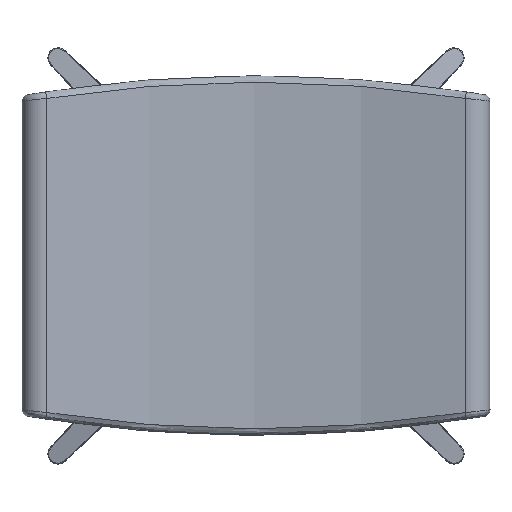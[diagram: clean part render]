
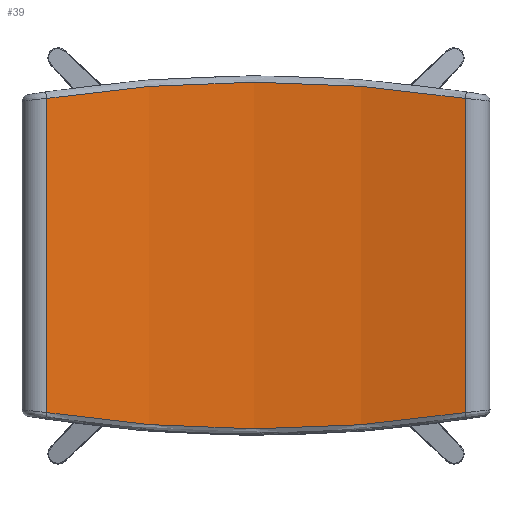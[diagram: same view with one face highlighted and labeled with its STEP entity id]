
A CAD part, top view. The second image highlights one B-rep face of the part: STEP entity #39.
In plain terms, the highlighted free-form (B-spline) face has degree [2, 1] with [3, 2] control points.
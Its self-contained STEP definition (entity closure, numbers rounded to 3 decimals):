
#39=ADVANCED_FACE('',(#195),#2098,.T.);
#195=FACE_OUTER_BOUND('',#351,.T.);
#351=EDGE_LOOP('',(#527,#528,#529,#530));
#527=ORIENTED_EDGE('',*,*,#1167,.F.);
#528=ORIENTED_EDGE('',*,*,#1172,.T.);
#529=ORIENTED_EDGE('',*,*,#1168,.T.);
#530=ORIENTED_EDGE('',*,*,#1185,.F.);
#1167=EDGE_CURVE('',#1893,#1901,#1523,.T.);
#1168=EDGE_CURVE('',#1894,#1902,#1524,.T.);
#1172=EDGE_CURVE('',#1893,#1894,#1528,.T.);
#1185=EDGE_CURVE('',#1901,#1902,#1540,.T.);
#1523=(
BOUNDED_CURVE()
B_SPLINE_CURVE(1,(#3179,#3180),.UNSPECIFIED.,.F.,.F.)
B_SPLINE_CURVE_WITH_KNOTS((2,2),(53.322,446.678),
 .UNSPECIFIED.)
CURVE()
GEOMETRIC_REPRESENTATION_ITEM()
RATIONAL_B_SPLINE_CURVE((1.,1.))
REPRESENTATION_ITEM('')
);
#1524=(
BOUNDED_CURVE()
B_SPLINE_CURVE(1,(#3181,#3182),.UNSPECIFIED.,.F.,.F.)
B_SPLINE_CURVE_WITH_KNOTS((2,2),(53.322,446.678),
 .UNSPECIFIED.)
CURVE()
GEOMETRIC_REPRESENTATION_ITEM()
RATIONAL_B_SPLINE_CURVE((1.,1.))
REPRESENTATION_ITEM('')
);
#1528=(
BOUNDED_CURVE()
B_SPLINE_CURVE(3,(#3195,#3196,#3197,#3198,#3199,#3200,#3201),
 .UNSPECIFIED.,.F.,.F.)
B_SPLINE_CURVE_WITH_KNOTS((4,1,1,1,4),(-1.232,129.027,
266.374,403.722,533.981),.UNSPECIFIED.)
CURVE()
GEOMETRIC_REPRESENTATION_ITEM()
RATIONAL_B_SPLINE_CURVE((1.,1.,1.,1.,
1.,1.,1.))
REPRESENTATION_ITEM('')
);
#1540=(
BOUNDED_CURVE()
B_SPLINE_CURVE(3,(#3261,#3262,#3263,#3264,#3265,#3266,#3267),
 .UNSPECIFIED.,.F.,.F.)
B_SPLINE_CURVE_WITH_KNOTS((4,1,1,1,4),(-1.232,129.027,
266.374,403.722,533.981),.UNSPECIFIED.)
CURVE()
GEOMETRIC_REPRESENTATION_ITEM()
RATIONAL_B_SPLINE_CURVE((1.,1.,1.,1.,1.,1.,1.))
REPRESENTATION_ITEM('')
);
#1893=VERTEX_POINT('',#3074);
#1894=VERTEX_POINT('',#3075);
#1901=VERTEX_POINT('',#3082);
#1902=VERTEX_POINT('',#3083);
#2098=(
BOUNDED_SURFACE()
B_SPLINE_SURFACE(2,1,((#2613,#2614),(#2615,#2616),(#2617,#2618)),
 .UNSPECIFIED.,.F.,.F.,.F.)
B_SPLINE_SURFACE_WITH_KNOTS((3,3),(2,2),(721.399,1250.508),
(0.,500.),.UNSPECIFIED.)
GEOMETRIC_REPRESENTATION_ITEM()
RATIONAL_B_SPLINE_SURFACE(((1.,1.),(0.968,0.968),
(1.,1.)))
REPRESENTATION_ITEM('')
SURFACE()
);
#2613=CARTESIAN_POINT('',(-261.727,-250.,403.372));
#2614=CARTESIAN_POINT('',(-261.727,250.,403.372));
#2615=CARTESIAN_POINT('',(0.,-250.,335.525));
#2616=CARTESIAN_POINT('',(0.,250.,335.525));
#2617=CARTESIAN_POINT('',(261.727,-250.,403.372));
#2618=CARTESIAN_POINT('',(261.727,250.,403.372));
#3074=CARTESIAN_POINT('',(-261.727,-196.678,403.372));
#3075=CARTESIAN_POINT('',(261.727,-196.678,403.372));
#3082=CARTESIAN_POINT('',(-261.727,196.678,403.372));
#3083=CARTESIAN_POINT('',(261.727,196.678,403.372));
#3179=CARTESIAN_POINT('',(-261.727,-196.678,403.372));
#3180=CARTESIAN_POINT('',(-261.727,196.678,403.372));
#3181=CARTESIAN_POINT('',(261.727,-196.678,403.372));
#3182=CARTESIAN_POINT('',(261.727,196.678,403.372));
#3195=CARTESIAN_POINT('',(-261.727,-196.678,403.372));
#3196=CARTESIAN_POINT('',(-220.479,-203.123,392.679));
#3197=CARTESIAN_POINT('',(-133.955,-213.419,375.805));
#3198=CARTESIAN_POINT('',(0.,-218.84,367.019));
#3199=CARTESIAN_POINT('',(133.955,-213.419,375.805));
#3200=CARTESIAN_POINT('',(220.479,-203.123,392.679));
#3201=CARTESIAN_POINT('',(261.727,-196.678,403.372));
#3261=CARTESIAN_POINT('',(-261.727,196.678,403.372));
#3262=CARTESIAN_POINT('',(-220.479,203.123,392.679));
#3263=CARTESIAN_POINT('',(-133.955,213.419,375.805));
#3264=CARTESIAN_POINT('',(0.,218.84,367.019));
#3265=CARTESIAN_POINT('',(133.955,213.419,375.805));
#3266=CARTESIAN_POINT('',(220.479,203.123,392.679));
#3267=CARTESIAN_POINT('',(261.727,196.678,403.372));
